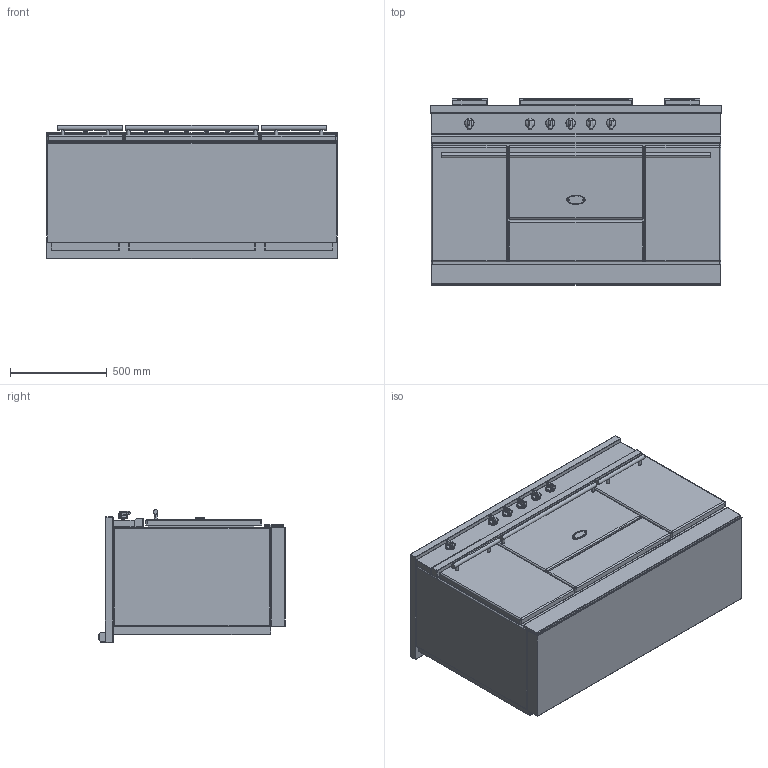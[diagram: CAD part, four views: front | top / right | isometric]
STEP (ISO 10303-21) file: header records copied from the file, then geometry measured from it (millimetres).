
FILE_DESCRIPTION((''),'2;1');
FILE_NAME('LMVTR1542_ASM','2022-04-13T11:31:30',('stagiaire'),(''),'CREO PARAMETRIC BY PTC INC, 2021424','CREO PARAMETRIC BY PTC INC, 2021424','');
FILE_SCHEMA(('AP203_CONFIGURATION_CONTROLLED_3D_DESIGN_OF_MECHANICAL_PARTS_AND_ASSEMBLIES_MIM_LF { 1 0 10303 403 2 1 2 }'));
Products named in the file (13): BASE_EXPORT_FONTENAY_LMVTR1541; 65049009; 65650001; 65064012; 19150009; 88064012_ASM; BASE_EXPORT_CITEAUX_LMVTR1542_ASM; TABLE_1505_INDUCTION_ET_VTR; 65052002; CHEMINEE_2020_LG182_EXPORT_STEP; CHEMINEE_2020_LG582_EXPORT_STEP; TABLE_1505_VTR_ASM; LMVTR1542_ASM
Assembly tree (18 placements, depth 4):
  LMVTR1542_ASM
    BASE_EXPORT_CITEAUX_LMVTR1542_ASM
      BASE_EXPORT_FONTENAY_LMVTR1541
      65049009
      65650001
      88064012_ASM  x6
        65064012
        19150009
    TABLE_1505_VTR_ASM
      TABLE_1505_INDUCTION_ET_VTR
      65052002
      CHEMINEE_2020_LG182_EXPORT_STEP  x2
      CHEMINEE_2020_LG582_EXPORT_STEP
Bounding box: 1505 x 963 x 688.5 mm (x, y, z)
Volume: 554216311.2 mm3; surface area: 13257145.7 mm2
Topology: 24 solids, 24 shells, 2705 faces, 7757 edges, 4924 vertices
Faces by surface type: cylinder 1084, plane 1063, sphere 234, bspline 218, torus 74, cone 30, extrusion 2
Entity records: 73877 total; most frequent: CARTESIAN_POINT 19851, DIRECTION 9869, ORIENTED_EDGE 9860, EDGE_CURVE 4930, VECTOR 3531, LINE 3529, AXIS2_PLACEMENT_3D 3151, VERTEX_POINT 3145
